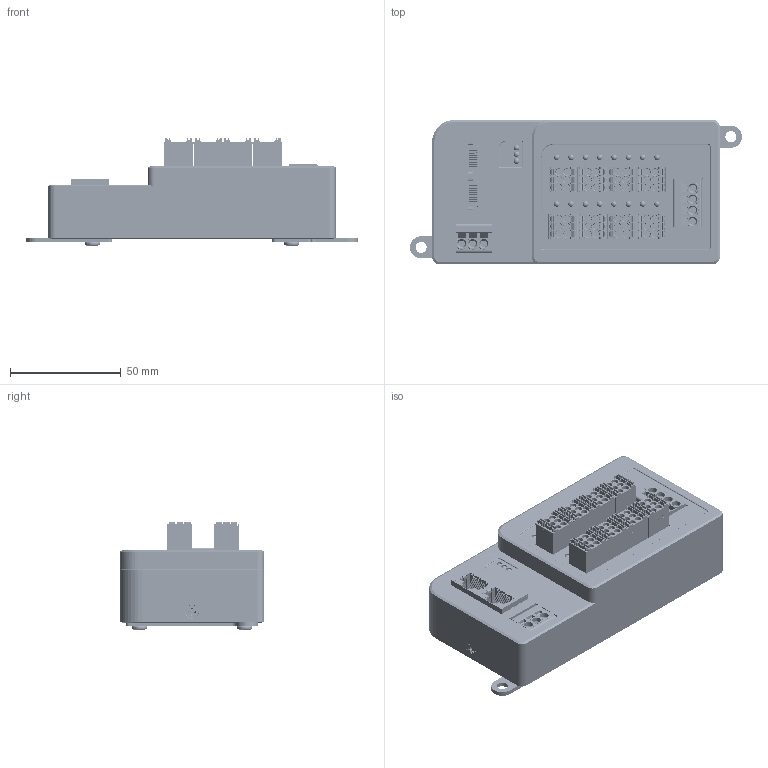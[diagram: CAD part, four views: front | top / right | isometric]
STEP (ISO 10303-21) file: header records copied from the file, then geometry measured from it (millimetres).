
FILE_DESCRIPTION((''),'2;1');
FILE_NAME('MR-0001_ASM','2024-12-02T00:19:38',('huang'),('yulong DESIGN'),'CREO PARAMETRIC BY PTC INC, 2021023','CREO PARAMETRIC BY PTC INC, 2021023','');
FILE_SCHEMA(('AUTOMOTIVE_DESIGN { 1 0 10303 214 1 1 1 1 }'));
Products named in the file (25): MR5101-EA_SKEL_3_1; FRONT_COVER_MR5101_36_1; REAR_COVER_MR5101_19_1; FRONT_PCBA_MR5101_24_1; REAR_PCBA_COMMON_26_1; LIGHT_PIPE_11D7_PWR_13_1; LIGHT_PIPE_10_IO_6_1; SCREW_PH_M2D5X5_4_1; SCREW_FLAT_M3X8_6_1; SCREW_PH_M4X6_3_1; SCREWS_ASM_2_ASM_1_ASM; DINKLE_0177-5304_1; DINKLE_0177-5303_1; PIN001_0_1; 24_-400600_1; BOSS-EXTRUDE1_1; 24_-955100_1; HY951180A_0_ASM_1_ASM; HY951180A-ASM_1_ASM_1_ASM; MR5101-EA_ASM_40_ASM_1_ASM; MC-DPT3_5V06-BK-2000_44; MC-DRT3_5H06P-A-BK-0001_38; M-ALL_ASM_42_ASM; CLW-1_18; MR-0001_ASM
Assembly tree (61 placements, depth 5):
  MR-0001_ASM
    MR5101-EA_ASM_40_ASM_1_ASM
      MR5101-EA_SKEL_3_1
      FRONT_COVER_MR5101_36_1
      REAR_COVER_MR5101_19_1
      FRONT_PCBA_MR5101_24_1
      REAR_PCBA_COMMON_26_1
      LIGHT_PIPE_11D7_PWR_13_1  x3
      LIGHT_PIPE_10_IO_6_1  x16
      SCREWS_ASM_2_ASM_1_ASM
        SCREW_PH_M2D5X5_4_1  x8
        SCREW_FLAT_M3X8_6_1  x2
        SCREW_PH_M4X6_3_1  x4
      DINKLE_0177-5304_1
      DINKLE_0177-5303_1
      HY951180A-ASM_1_ASM_1_ASM  x2
        PIN001_0_1
        HY951180A_0_ASM_1_ASM
          24_-400600_1
          BOSS-EXTRUDE1_1
          24_-955100_1
    M-ALL_ASM_42_ASM  x2
      MC-DPT3_5V06-BK-2000_44
      MC-DRT3_5H06P-A-BK-0001_38
    CLW-1_18  x2
Bounding box: 149.95 x 65 x 48.72 mm (x, y, z)
Volume: 125255.7 mm3; surface area: 126026.9 mm2
Topology: 63 solids, 181 shells, 10012 faces, 29062 edges, 19702 vertices
Faces by surface type: plane 5582, cylinder 3021, torus 508, cone 355, extrusion 264, bspline 209, sphere 49, revolution 24
Entity records: 140559 total; most frequent: CARTESIAN_POINT 38294, ORIENTED_EDGE 17236, DIRECTION 16129, EDGE_CURVE 9378, VERTEX_POINT 6630, VECTOR 5593, LINE 5557, AXIS2_PLACEMENT_3D 5266
